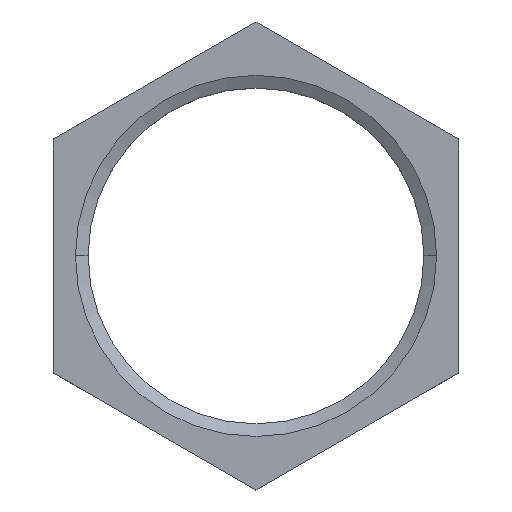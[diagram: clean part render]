
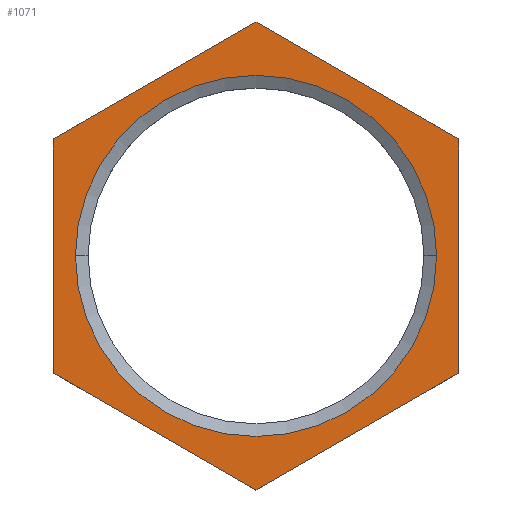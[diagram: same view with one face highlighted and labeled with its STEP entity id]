
A CAD part, top view. The second image highlights one B-rep face of the part: STEP entity #1071.
In plain terms, the highlighted planar face has unit normal (0, 0, 1).
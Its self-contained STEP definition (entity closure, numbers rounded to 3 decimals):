
#3 = FACE_OUTER_BOUND ( 'NONE', #831, .T. ) ;
#4 = FACE_BOUND ( 'NONE', #826, .T. ) ;
#136 = CARTESIAN_POINT ( 'NONE',  ( -11.5, 6.64, 0. ) ) ;
#143 = DIRECTION ( 'NONE',  ( -0.866, 0.5, 0. ) ) ;
#144 = VECTOR ( 'NONE', #143, 1000. ) ;
#145 = CARTESIAN_POINT ( 'NONE',  ( 11.5, 6.64, 0. ) ) ;
#146 = LINE ( 'NONE', #145, #144 ) ;
#157 = CARTESIAN_POINT ( 'NONE',  ( 0., -13.279, 0. ) ) ;
#158 = DIRECTION ( 'NONE',  ( -1., 0., 0. ) ) ;
#159 = DIRECTION ( 'NONE',  ( 0., 0., -1. ) ) ;
#160 = CARTESIAN_POINT ( 'NONE',  ( 0., 13.3, 0. ) ) ;
#161 = AXIS2_PLACEMENT_3D ( 'NONE', #160, #159, #158 ) ;
#162 = PLANE ( 'NONE',  #161 ) ;
#692 = VERTEX_POINT ( 'NONE', #1212 ) ;
#700 = VERTEX_POINT ( 'NONE', #1434 ) ;
#715 = VERTEX_POINT ( 'NONE', #1410 ) ;
#716 = EDGE_CURVE ( 'NONE', #715, #700, #1426, .T. ) ;
#768 = EDGE_CURVE ( 'NONE', #769, #692, #1471, .T. ) ;
#769 = VERTEX_POINT ( 'NONE', #1461 ) ;
#826 = EDGE_LOOP ( 'NONE', ( #1084, #879 ) ) ;
#830 = ORIENTED_EDGE ( 'NONE', *, *, #1081, .T. ) ;
#831 = EDGE_LOOP ( 'NONE', ( #830, #875, #877, #874, #882, #881 ) ) ;
#832 = EDGE_CURVE ( 'NONE', #878, #1072, #1841, .T. ) ;
#874 = ORIENTED_EDGE ( 'NONE', *, *, #832, .T. ) ;
#875 = ORIENTED_EDGE ( 'NONE', *, *, #876, .T. ) ;
#876 = EDGE_CURVE ( 'NONE', #886, #1086, #1759, .T. ) ;
#877 = ORIENTED_EDGE ( 'NONE', *, *, #890, .T. ) ;
#878 = VERTEX_POINT ( 'NONE', #1755 ) ;
#879 = ORIENTED_EDGE ( 'NONE', *, *, #716, .F. ) ;
#880 = EDGE_CURVE ( 'NONE', #1072, #769, #1754, .T. ) ;
#881 = ORIENTED_EDGE ( 'NONE', *, *, #768, .T. ) ;
#882 = ORIENTED_EDGE ( 'NONE', *, *, #880, .T. ) ;
#886 = VERTEX_POINT ( 'NONE', #1741 ) ;
#887 = EDGE_CURVE ( 'NONE', #700, #715, #1740, .T. ) ;
#890 = EDGE_CURVE ( 'NONE', #1086, #878, #1735, .T. ) ;
#1071 = ADVANCED_FACE ( 'NONE', ( #4, #3 ), #162, .F. ) ;
#1072 = VERTEX_POINT ( 'NONE', #157 ) ;
#1081 = EDGE_CURVE ( 'NONE', #692, #886, #146, .T. ) ;
#1084 = ORIENTED_EDGE ( 'NONE', *, *, #887, .F. ) ;
#1086 = VERTEX_POINT ( 'NONE', #136 ) ;
#1212 = CARTESIAN_POINT ( 'NONE',  ( 11.5, 6.64, 0. ) ) ;
#1409 = CARTESIAN_POINT ( 'NONE',  ( 0., 0., 0. ) ) ;
#1410 = CARTESIAN_POINT ( 'NONE',  ( -10.25, 0., 0. ) ) ;
#1423 = DIRECTION ( 'NONE',  ( 1., 0., 0. ) ) ;
#1424 = DIRECTION ( 'NONE',  ( 0., 0., 1. ) ) ;
#1425 = AXIS2_PLACEMENT_3D ( 'NONE', #1409, #1424, #1423 ) ;
#1426 = CIRCLE ( 'NONE', #1425, 10.25 ) ;
#1434 = CARTESIAN_POINT ( 'NONE',  ( 10.25, 0., 0. ) ) ;
#1461 = CARTESIAN_POINT ( 'NONE',  ( 11.5, -6.64, 0. ) ) ;
#1462 = DIRECTION ( 'NONE',  ( 0., 1., 0. ) ) ;
#1463 = VECTOR ( 'NONE', #1462, 1000. ) ;
#1464 = CARTESIAN_POINT ( 'NONE',  ( 11.5, -6.64, 0. ) ) ;
#1471 = LINE ( 'NONE', #1464, #1463 ) ;
#1732 = DIRECTION ( 'NONE',  ( 0., -1., 0. ) ) ;
#1733 = VECTOR ( 'NONE', #1732, 1000. ) ;
#1734 = CARTESIAN_POINT ( 'NONE',  ( -11.5, 6.64, 0. ) ) ;
#1735 = LINE ( 'NONE', #1734, #1733 ) ;
#1736 = DIRECTION ( 'NONE',  ( 1., 0., 0. ) ) ;
#1737 = DIRECTION ( 'NONE',  ( 0., 0., 1. ) ) ;
#1738 = CARTESIAN_POINT ( 'NONE',  ( 0., 0., 0. ) ) ;
#1739 = AXIS2_PLACEMENT_3D ( 'NONE', #1738, #1737, #1736 ) ;
#1740 = CIRCLE ( 'NONE', #1739, 10.25 ) ;
#1741 = CARTESIAN_POINT ( 'NONE',  ( 0., 13.279, 0. ) ) ;
#1751 = DIRECTION ( 'NONE',  ( 0.866, 0.5, 0. ) ) ;
#1752 = VECTOR ( 'NONE', #1751, 1000. ) ;
#1753 = CARTESIAN_POINT ( 'NONE',  ( 0., -13.279, 0. ) ) ;
#1754 = LINE ( 'NONE', #1753, #1752 ) ;
#1755 = CARTESIAN_POINT ( 'NONE',  ( -11.5, -6.64, 0. ) ) ;
#1756 = DIRECTION ( 'NONE',  ( -0.866, -0.5, 0. ) ) ;
#1757 = VECTOR ( 'NONE', #1756, 1000. ) ;
#1758 = CARTESIAN_POINT ( 'NONE',  ( 0., 13.279, 0. ) ) ;
#1759 = LINE ( 'NONE', #1758, #1757 ) ;
#1838 = DIRECTION ( 'NONE',  ( 0.866, -0.5, 0. ) ) ;
#1839 = VECTOR ( 'NONE', #1838, 1000. ) ;
#1840 = CARTESIAN_POINT ( 'NONE',  ( -11.5, -6.64, 0. ) ) ;
#1841 = LINE ( 'NONE', #1840, #1839 ) ;
